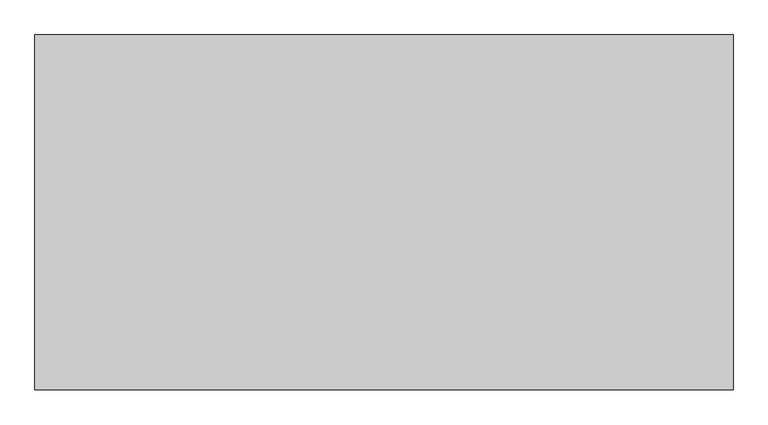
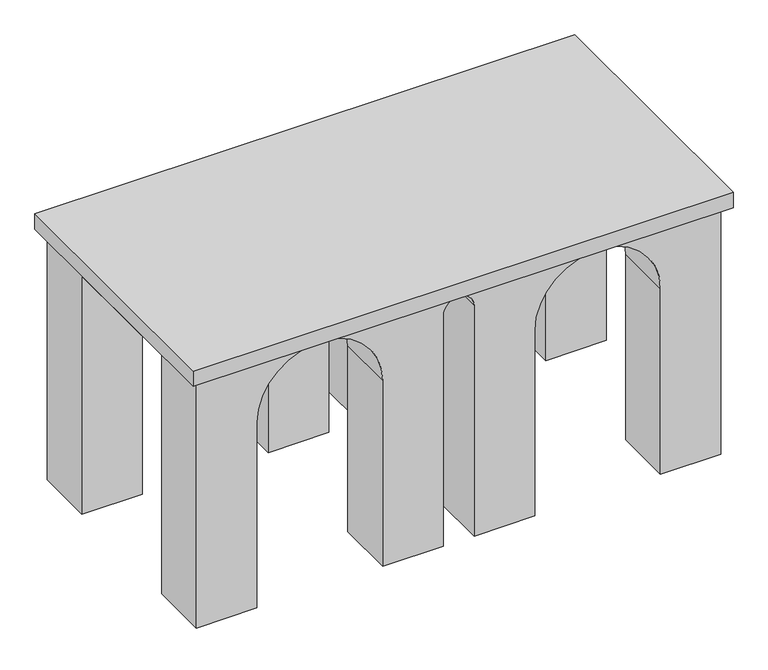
"""IFC4 building model written with IfcOpenShell, lengths in millimetres: valve geometry, Pipelife - Stormbox II - Skrzynka rozsączająca : Skrzynka rozsączająca."""

from ifc_helpers import new_model, si_unit, frame, origin, place, context, project, spatial, polyline, circle_curve, outline, extrude, source, transform, mapped, element, save
from ifc_brep_helpers import plane_surface, revolved_surface, advanced_brep


def valve_32763297(model_context):
    return source(origin(), model_context, "Body", "SolidModel", [
        extrude(outline(polyline([(611.0, 310.5), (611.0, -310.5), (-611.0, -310.5), (-611.0, 310.5), (611.0, 310.5)])), frame((0.0, 0.0, 595.0), z_axis=(0.0, 0.0, 1.0), x_axis=(1.0, 0.0, 0.0)), (0.0, 0.0, 1.0), 37.0),
        advanced_brep(
        [(-457.0, -292.5, 0.0), (-594.0, -292.5, 0.0), (-594.0, -156.5, 0.0), (-457.0, -156.5, 0.0), (594.0, -292.5, 0.0), (457.0, -292.5, 0.0), (457.0, -156.5, 0.0), (594.0, -156.5, 0.0), (-594.0, 292.5, 0.0), (-457.0, 292.5, 0.0), (-457.0, 156.5, 0.0), (-594.0, 156.5, 0.0), (457.0, 292.5, 0.0), (594.0, 292.5, 0.0), (594.0, 156.5, 0.0), (457.0, 156.5, 0.0), (-35.0, -292.5, 0.0), (-172.0, -292.5, 0.0), (-172.0, -156.5, 0.0), (-35.0, -156.5, 0.0), (172.0, -292.5, 0.0), (35.0, -292.5, 0.0), (35.0, -156.5, 0.0), (172.0, -156.5, 0.0), (-172.0, 292.5, 0.0), (-35.0, 292.5, 0.0), (-35.0, 156.5, 0.0), (-172.0, 156.5, 0.0), (35.0, 292.5, 0.0), (172.0, 292.5, 0.0), (172.0, 156.5, 0.0), (35.0, 156.5, 0.0), (594.0, 292.5, 595.0), (-594.0, 292.5, 595.0), (-594.0, -292.5, 595.0), (594.0, -292.5, 595.0), (594.0, -156.5, 570.0), (594.0, 156.5, 570.0), (-457.0, -292.5, 444.5), (-172.0, -292.5, 444.5), (-35.0, -292.5, 551.0), (35.0, -292.5, 551.0), (172.0, -292.5, 444.5), (457.0, -292.5, 444.5), (-594.0, 156.5, 570.0), (-594.0, -156.5, 570.0), (457.0, 292.5, 444.5), (172.0, 292.5, 444.5), (35.0, 292.5, 551.0), (-35.0, 292.5, 551.0), (-172.0, 292.5, 444.5), (-457.0, 292.5, 444.5), (-457.0, -156.5, 444.5), (-457.0, 156.5, 444.5), (-172.0, -156.5, 444.5), (-172.0, 156.5, 444.5), (-381.9981481, -156.5, 570.0), (-381.9981481, 156.5, 570.0), (-247.0018519, 156.5, 570.0), (-247.0018519, -156.5, 570.0), (172.0, -156.5, 444.5), (247.0018519, -156.5, 570.0), (247.0018519, 156.5, 570.0), (172.0, 156.5, 444.5), (457.0, 156.5, 444.5), (381.9981481, 156.5, 570.0), (381.9981481, -156.5, 570.0), (457.0, -156.5, 444.5), (-35.0, -156.5, 551.0), (-35.0, 156.5, 551.0), (35.0, -156.5, 551.0), (35.0, 156.5, 551.0), (-29.3938769, -156.5, 570.0), (-29.3938769, 156.5, 570.0), (29.3938769, 156.5, 570.0), (29.3938769, -156.5, 570.0)],
        [
            (0, 1),
            (1, 2),
            (2, 3),
            (3, 0),
            (4, 5),
            (5, 6),
            (6, 7),
            (7, 4),
            (8, 9),
            (9, 10),
            (10, 11),
            (11, 8),
            (12, 13),
            (13, 14),
            (14, 15),
            (15, 12),
            (16, 17),
            (17, 18),
            (18, 19),
            (19, 16),
            (20, 21),
            (21, 22),
            (22, 23),
            (23, 20),
            (24, 25),
            (25, 26),
            (26, 27),
            (27, 24),
            (28, 29),
            (29, 30),
            (30, 31),
            (31, 28),
            (32, 33),
            (33, 34),
            (34, 35),
            (35, 32),
            (35, 4),
            (7, 36),
            (36, 37),
            (37, 14),
            (13, 32),
            (34, 1),
            (0, 38),
            (38, 39, circle_curve(frame((-314.5, -292.5, 444.5), z_axis=(0.0, 1.0, 0.0), x_axis=(1.0, 0.0, 0.0)), 142.5)),
            (39, 17),
            (16, 40),
            (40, 41, circle_curve(frame((0.0, -292.5, 551.0), z_axis=(0.0, 1.0, 0.0), x_axis=(1.0, 0.0, 0.0)), 35.0)),
            (41, 21),
            (20, 42),
            (42, 43, circle_curve(frame((314.5, -292.5, 444.5), z_axis=(0.0, 1.0, 0.0), x_axis=(1.0, 0.0, 0.0)), 142.5)),
            (43, 5),
            (33, 8),
            (11, 44),
            (44, 45),
            (45, 2),
            (12, 46),
            (46, 47, circle_curve(frame((314.5, 292.5, 444.5), z_axis=(0.0, -1.0, 0.0), x_axis=(1.0, 0.0, 0.0)), 142.5)),
            (47, 29),
            (28, 48),
            (48, 49, circle_curve(frame((0.0, 292.5, 551.0), z_axis=(0.0, -1.0, 0.0), x_axis=(1.0, 0.0, 0.0)), 35.0)),
            (49, 25),
            (24, 50),
            (50, 51, circle_curve(frame((-314.5, 292.5, 444.5), z_axis=(0.0, -1.0, 0.0), x_axis=(1.0, 0.0, 0.0)), 142.5)),
            (51, 9),
            (3, 52),
            (52, 38),
            (51, 53),
            (53, 10),
            (39, 54),
            (54, 18),
            (27, 55),
            (55, 50),
            (52, 56, circle_curve(frame((-314.5, -156.5, 444.5), z_axis=(0.0, 1.0, 0.0), x_axis=(1.0, 0.0, 0.0)), 142.5)),
            (56, 57),
            (57, 53, circle_curve(frame((-314.5, 156.5, 444.5), z_axis=(0.0, -1.0, 0.0), x_axis=(1.0, 0.0, 0.0)), 142.5)),
            (55, 58, circle_curve(frame((-314.5, 156.5, 444.5), z_axis=(0.0, -1.0, 0.0), x_axis=(1.0, 0.0, 0.0)), 142.5)),
            (58, 59),
            (59, 54, circle_curve(frame((-314.5, -156.5, 444.5), z_axis=(0.0, 1.0, 0.0), x_axis=(1.0, 0.0, 0.0)), 142.5)),
            (42, 60),
            (60, 61, circle_curve(frame((314.5, -156.5, 444.5), z_axis=(0.0, 1.0, 0.0), x_axis=(1.0, 0.0, 0.0)), 142.5)),
            (61, 62),
            (62, 63, circle_curve(frame((314.5, 156.5, 444.5), z_axis=(0.0, -1.0, 0.0), x_axis=(1.0, 0.0, 0.0)), 142.5)),
            (63, 47),
            (46, 64),
            (64, 65, circle_curve(frame((314.5, 156.5, 444.5), z_axis=(0.0, -1.0, 0.0), x_axis=(1.0, 0.0, 0.0)), 142.5)),
            (65, 66),
            (66, 67, circle_curve(frame((314.5, -156.5, 444.5), z_axis=(0.0, 1.0, 0.0), x_axis=(1.0, 0.0, 0.0)), 142.5)),
            (67, 43),
            (23, 60),
            (63, 30),
            (67, 6),
            (15, 64),
            (19, 68),
            (68, 40),
            (49, 69),
            (69, 26),
            (41, 70),
            (70, 22),
            (31, 71),
            (71, 48),
            (68, 72, circle_curve(frame((0.0, -156.5, 551.0), z_axis=(0.0, 1.0, 0.0), x_axis=(1.0, 0.0, 0.0)), 35.0)),
            (72, 73),
            (73, 69, circle_curve(frame((0.0, 156.5, 551.0), z_axis=(0.0, -1.0, 0.0), x_axis=(1.0, 0.0, 0.0)), 35.0)),
            (71, 74, circle_curve(frame((0.0, 156.5, 551.0), z_axis=(0.0, -1.0, 0.0), x_axis=(1.0, 0.0, 0.0)), 35.0)),
            (74, 75),
            (75, 70, circle_curve(frame((0.0, -156.5, 551.0), z_axis=(0.0, 1.0, 0.0), x_axis=(1.0, 0.0, 0.0)), 35.0)),
            (56, 45),
            (44, 57),
            (36, 66),
            (65, 37),
            (72, 59),
            (58, 73),
            (61, 75),
            (74, 62),
        ],
        [
            plane_surface(frame((0.0, 0.0, 0.0), z_axis=(0.0, 0.0, -1.0), x_axis=(0.0, -1.0, 0.0))),
            plane_surface(frame((0.0, 0.0, 595.0), z_axis=(0.0, 0.0, 1.0), x_axis=(0.0, -1.0, 0.0))),
            plane_surface(frame((594.0, 292.5, 0.0), z_axis=(1.0, 0.0, 0.0), x_axis=(0.0, 0.0, 1.0))),
            plane_surface(frame((594.0, -292.5, 0.0), z_axis=(0.0, -1.0, 0.0), x_axis=(0.0, 0.0, 1.0))),
            plane_surface(frame((-594.0, -292.5, 0.0), z_axis=(-1.0, 0.0, 0.0), x_axis=(0.0, 0.0, 1.0))),
            plane_surface(frame((-594.0, 292.5, 0.0), z_axis=(0.0, 1.0, 0.0), x_axis=(0.0, 0.0, 1.0))),
            plane_surface(frame((-457.0, -310.5, 444.5), z_axis=(1.0, 0.0, 0.0), x_axis=(0.0, 1.0, 0.0))),
            plane_surface(frame((-172.0, -310.5, 0.0), z_axis=(-1.0, 0.0, 0.0), x_axis=(0.0, 1.0, 0.0))),
            revolved_surface(polyline([(-172.0, -292.5, 444.5), (-172.0, 292.5, 444.5)]), (-314.5, 310.5, 444.5), (0.0, -1.0, 0.0)),
            revolved_surface(polyline([(457.0, -292.5, 444.5), (457.0, 292.5, 444.5)]), (314.5, 0.0, 444.5), (0.0, -1.0, 0.0)),
            plane_surface(frame((172.0, -310.5, 444.5), z_axis=(1.0, 0.0, 0.0), x_axis=(0.0, 1.0, 0.0))),
            plane_surface(frame((457.0, -310.5, 0.0), z_axis=(-1.0, 0.0, 0.0), x_axis=(0.0, 1.0, 0.0))),
            plane_surface(frame((-35.0, -310.5, 551.0), z_axis=(1.0, 0.0, 0.0), x_axis=(0.0, 1.0, 0.0))),
            plane_surface(frame((35.0, -310.5, 0.0), z_axis=(-1.0, 0.0, 0.0), x_axis=(0.0, 1.0, 0.0))),
            revolved_surface(polyline([(35.0, -292.5, 551.0), (35.0, 292.5, 551.0)]), (0.0, 0.0, 551.0), (0.0, -1.0, 0.0)),
            plane_surface(frame((-611.0, -156.5, 570.0), z_axis=(0.0, 0.0, -1.0), x_axis=(1.0, 0.0, 0.0))),
            plane_surface(frame((-611.0, 156.5, 570.0), z_axis=(0.0, -1.0, 0.0), x_axis=(1.0, 0.0, 0.0))),
            plane_surface(frame((-611.0, -156.5, 0.0), z_axis=(0.0, 1.0, 0.0), x_axis=(1.0, 0.0, 0.0))),
        ],
        [
            (0, [[1, 2, 3, 4]]),
            (0, [[5, 6, 7, 8]]),
            (0, [[9, 10, 11, 12]]),
            (0, [[13, 14, 15, 16]]),
            (0, [[17, 18, 19, 20]]),
            (0, [[21, 22, 23, 24]]),
            (0, [[25, 26, 27, 28]]),
            (0, [[29, 30, 31, 32]]),
            (1, [[33, 34, 35, 36]]),
            (2, [[-36, 37, -8, 38, 39, 40, -14, 41]]),
            (3, [[-35, 42, -1, 43, 44, 45, -17, 46, 47, 48, -21, 49, 50, 51, -5, -37]]),
            (4, [[-34, 52, -12, 53, 54, 55, -2, -42]]),
            (5, [[-33, -41, -13, 56, 57, 58, -29, 59, 60, 61, -25, 62, 63, 64, -9, -52]]),
            (6, [[-43, -4, 65, 66]]),
            (6, [[-64, 67, 68, -10]]),
            (7, [[-45, 69, 70, -18]]),
            (7, [[-62, -28, 71, 72]]),
            (8, [[-44, -66, 73, 74, 75, -67, -63, -72, 76, 77, 78, -69]]),
            (9, [[-50, 79, 80, 81, 82, 83, -57, 84, 85, 86, 87, 88]]),
            (10, [[-49, -24, 89, -79]]),
            (10, [[-58, -83, 90, -30]]),
            (11, [[-51, -88, 91, -6]]),
            (11, [[-56, -16, 92, -84]]),
            (12, [[-46, -20, 93, 94]]),
            (12, [[-61, 95, 96, -26]]),
            (13, [[-48, 97, 98, -22]]),
            (13, [[-59, -32, 99, 100]]),
            (14, [[-47, -94, 101, 102, 103, -95, -60, -100, 104, 105, 106, -97]]),
            (15, [[107, -54, 108, -74]]),
            (15, [[109, -86, 110, -39]]),
            (15, [[111, -77, 112, -102]]),
            (15, [[113, -105, 114, -81]]),
            (16, [[-108, -53, -11, -68, -75]]),
            (16, [[-110, -85, -92, -15, -40]]),
            (16, [[-112, -76, -71, -27, -96, -103]]),
            (16, [[-114, -104, -99, -31, -90, -82]]),
            (17, [[-107, -73, -65, -3, -55]]),
            (17, [[-109, -38, -7, -91, -87]]),
            (17, [[-111, -101, -93, -19, -70, -78]]),
            (17, [[-113, -80, -89, -23, -98, -106]]),
        ],
    ),
    ])


if __name__ == "__main__":
    model = new_model("IFC4")
    model_context = context("Model", 3, world=origin())
    ifc_project = project(units=[si_unit("LENGTHUNIT", "METRE", prefix="MILLI")], contexts=[model_context])
    site = spatial("IfcSite", under=ifc_project)
    building = spatial("IfcBuilding", under=site)
    placement = place(None, origin())
    valve_shape = valve_32763297(model_context)
    element("IfcValve", 1, ObjectType="Pipelife - Stormbox II - Skrzynka rozsączająca : Skrzynka rozsączająca", at=placement, inside=building, context=model_context, shape_type="MappedRepresentation", body=[
        mapped(valve_shape, transform((0.0, 0.0, 0.0), x_axis=(1.0, 0.0, 0.0), y_axis=(0.0, 1.0, 0.0), z_axis=(0.0, 0.0, 1.0))),
    ])
    save(model, "model.ifc")
